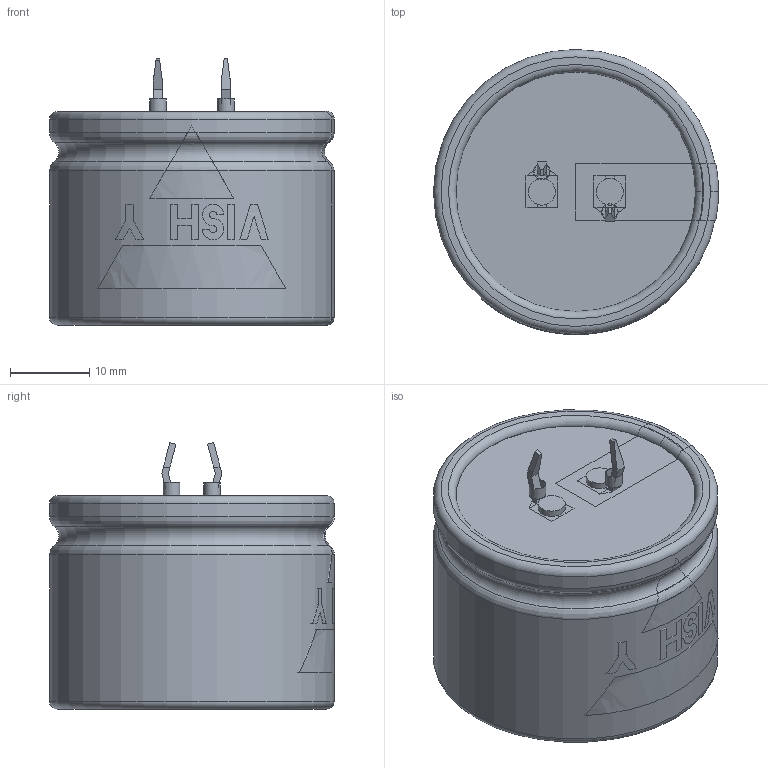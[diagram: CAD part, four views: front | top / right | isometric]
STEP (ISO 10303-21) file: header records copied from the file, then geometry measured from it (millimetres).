
FILE_DESCRIPTION(('FreeCAD Model'),'2;1');
FILE_NAME( 'C:/Users/Gebruiker/Documents/FreeCAD/SnapIn_35x25_2pin_5.8.step', '2020-11-12T20:33:59',('Author'),(''), 'Open CASCADE STEP processor 6.8','FreeCAD','Unknown');
FILE_SCHEMA(('AUTOMOTIVE_DESIGN_CC2 { 1 2 10303 214 -1 1 5 4 }'));
Length unit declared in the file: millimetre
Products named in the file (9): ASSEMBLY; TerminalMin; TerminalPlus; PCBHoles; Disc; BottomInsulation; Can3D; InkMinusBar; InkLogo
Assembly tree (8 placements, depth 2):
  ASSEMBLY
    TerminalMin
    TerminalPlus
    PCBHoles
    Disc
    BottomInsulation
    Can3D
    InkMinusBar
    InkLogo
Bounding box: 36.05 x 36.05 x 33.75 mm (x, y, z)
Volume: 32212 mm3; surface area: 13755.2 mm2
Topology: 15 solids, 15 shells, 176 faces, 422 edges, 276 vertices
Faces by surface type: plane 126, cylinder 29, torus 21
Full cylindrical faces by diameter (mm): 2 x2, 2.1 x2, 3.4 x2, 28.8 x2, 30.3 x1, 36 x2
Entity records: 20693 total; most frequent: CARTESIAN_POINT 11247, DIRECTION 1451, ORIENTED_EDGE 844, PCURVE 844, DEFINITIONAL_REPRESENTATION 844, LINE 787, VECTOR 787, EDGE_CURVE 422
